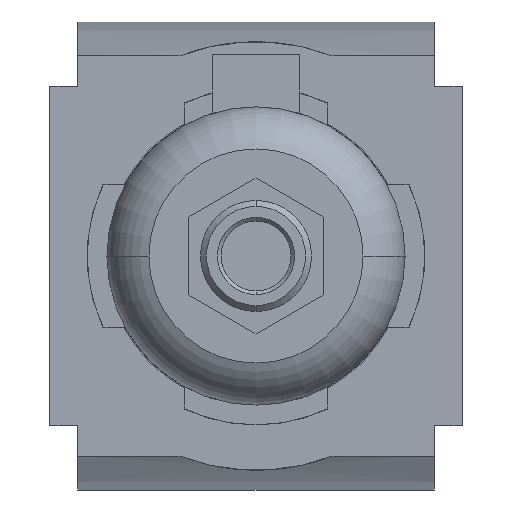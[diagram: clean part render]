
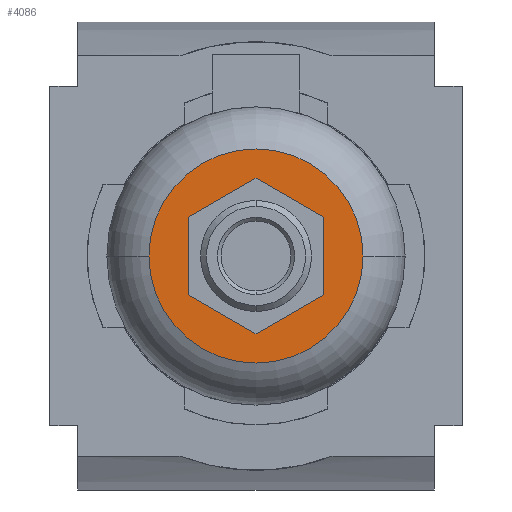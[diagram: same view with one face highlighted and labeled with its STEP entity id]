
A CAD part, front view. The second image highlights one B-rep face of the part: STEP entity #4086.
In plain terms, the highlighted planar face has unit normal (0, -1, 0).
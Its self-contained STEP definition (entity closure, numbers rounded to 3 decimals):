
#3038=CARTESIAN_POINT('',(0.,-100.,0.));
#3039=DIRECTION('',(0.,-1.,0.));
#3040=DIRECTION('',(1.,0.,0.));
#3041=AXIS2_PLACEMENT_3D('',#3038,#3039,#3040);
#3043=DIRECTION('',(0.,0.,1.));
#3044=VECTOR('',#3043,9.815);
#3045=CARTESIAN_POINT('',(-8.5,-100.,-4.907));
#3046=LINE('',#3045,#3044);
#3047=DIRECTION('',(-0.866,0.,0.5));
#3048=VECTOR('',#3047,9.815);
#3049=CARTESIAN_POINT('',(0.,-100.,-9.815));
#3050=LINE('',#3049,#3048);
#3051=DIRECTION('',(-0.866,0.,-0.5));
#3052=VECTOR('',#3051,9.815);
#3053=CARTESIAN_POINT('',(8.5,-100.,-4.907));
#3054=LINE('',#3053,#3052);
#3055=DIRECTION('',(0.,0.,-1.));
#3056=VECTOR('',#3055,9.815);
#3057=CARTESIAN_POINT('',(8.5,-100.,4.907));
#3058=LINE('',#3057,#3056);
#3059=DIRECTION('',(0.866,0.,-0.5));
#3060=VECTOR('',#3059,9.815);
#3061=CARTESIAN_POINT('',(0.,-100.,9.815));
#3062=LINE('',#3061,#3060);
#3063=DIRECTION('',(0.866,0.,0.5));
#3064=VECTOR('',#3063,9.815);
#3065=CARTESIAN_POINT('',(-8.5,-100.,4.907));
#3066=LINE('',#3065,#3064);
#3263=CARTESIAN_POINT('',(0.,-100.,0.));
#3264=DIRECTION('',(0.,-1.,0.));
#3265=DIRECTION('',(-1.,0.,0.));
#3266=AXIS2_PLACEMENT_3D('',#3263,#3264,#3265);
#4002=CARTESIAN_POINT('',(-8.5,-100.,-4.907));
#4003=CARTESIAN_POINT('',(-8.5,-100.,4.907));
#4004=VERTEX_POINT('',#4002);
#4005=VERTEX_POINT('',#4003);
#4006=CARTESIAN_POINT('',(0.,-100.,9.815));
#4007=VERTEX_POINT('',#4006);
#4008=CARTESIAN_POINT('',(8.5,-100.,4.907));
#4009=VERTEX_POINT('',#4008);
#4010=CARTESIAN_POINT('',(8.5,-100.,-4.907));
#4011=VERTEX_POINT('',#4010);
#4012=CARTESIAN_POINT('',(0.,-100.,-9.815));
#4013=VERTEX_POINT('',#4012);
#4014=CARTESIAN_POINT('',(13.5,-100.,0.));
#4015=CARTESIAN_POINT('',(-13.5,-100.,0.));
#4016=VERTEX_POINT('',#4014);
#4017=VERTEX_POINT('',#4015);
#4062=CARTESIAN_POINT('',(0.,-100.,0.));
#4063=DIRECTION('',(0.,-1.,0.));
#4064=DIRECTION('',(1.,0.,0.));
#4065=AXIS2_PLACEMENT_3D('',#4062,#4063,#4064);
#4066=PLANE('',#4065);
#4067=ORIENTED_EDGE('',*,*,#4051,.F.);
#4069=ORIENTED_EDGE('',*,*,#4068,.F.);
#4070=EDGE_LOOP('',(#4067,#4069));
#4071=FACE_OUTER_BOUND('',#4070,.F.);
#4073=ORIENTED_EDGE('',*,*,#4072,.F.);
#4075=ORIENTED_EDGE('',*,*,#4074,.F.);
#4077=ORIENTED_EDGE('',*,*,#4076,.F.);
#4079=ORIENTED_EDGE('',*,*,#4078,.F.);
#4081=ORIENTED_EDGE('',*,*,#4080,.F.);
#4083=ORIENTED_EDGE('',*,*,#4082,.F.);
#4084=EDGE_LOOP('',(#4073,#4075,#4077,#4079,#4081,#4083));
#4085=FACE_BOUND('',#4084,.F.);
#4086=ADVANCED_FACE('',(#4071,#4085),#4066,.T.);
#3042=CIRCLE('',#3041,13.5);
#3267=CIRCLE('',#3266,13.5);
#4051=EDGE_CURVE('',#4016,#4017,#3042,.T.);
#4068=EDGE_CURVE('',#4017,#4016,#3267,.T.);
#4072=EDGE_CURVE('',#4004,#4005,#3046,.T.);
#4074=EDGE_CURVE('',#4013,#4004,#3050,.T.);
#4076=EDGE_CURVE('',#4011,#4013,#3054,.T.);
#4078=EDGE_CURVE('',#4009,#4011,#3058,.T.);
#4080=EDGE_CURVE('',#4007,#4009,#3062,.T.);
#4082=EDGE_CURVE('',#4005,#4007,#3066,.T.);
